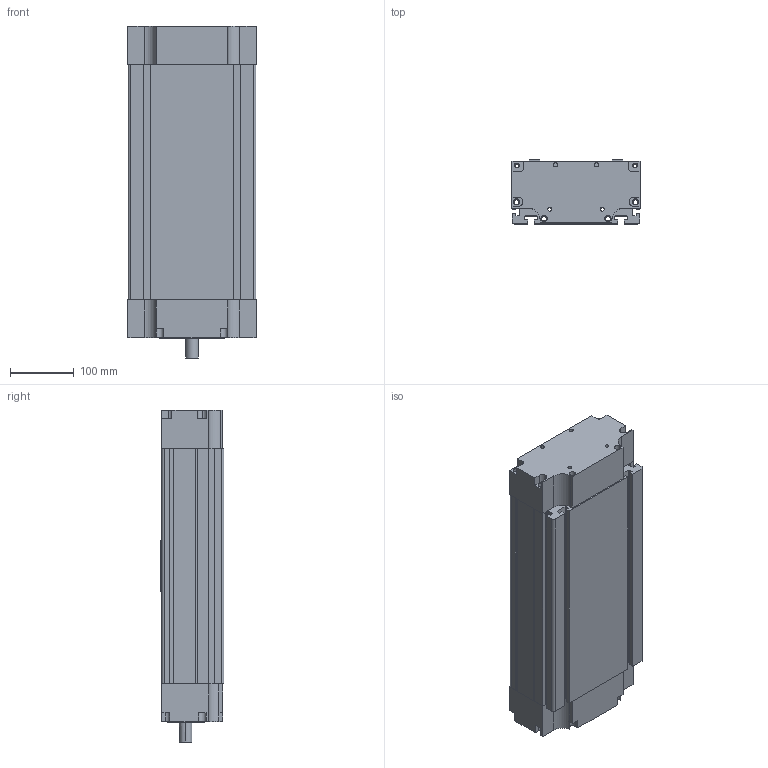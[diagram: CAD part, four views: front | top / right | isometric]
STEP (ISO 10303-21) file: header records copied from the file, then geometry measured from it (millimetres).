
FILE_DESCRIPTION (( 'STEP AP203' ), '1' );
FILE_NAME ('MSY200B-100-LL3232-P7.STEP', '2013-11-02T05:34:43', ( '微软用户' ), ( '微软中国' ), 'SwSTEP 2.0', 'SolidWorks 2010', '' );
FILE_SCHEMA (( 'CONFIG_CONTROL_DESIGN' ));
Length unit declared in the file: millimetre
Products named in the file (1): MSY200B-100-LL3232-P7
Bounding box: 200.2 x 99.96 x 519 mm (x, y, z)
Volume: 8682659.9 mm3; surface area: 509931.4 mm2
Topology: 1 solids, 1 shells, 326 faces, 855 edges, 552 vertices
Faces by surface type: plane 220, cylinder 98, cone 8
Entity records: 10045 total; most frequent: CARTESIAN_POINT 1756, DIRECTION 1702, ORIENTED_EDGE 1694, EDGE_CURVE 847, VECTOR 642, LINE 642, VERTEX_POINT 552, AXIS2_PLACEMENT_3D 530
